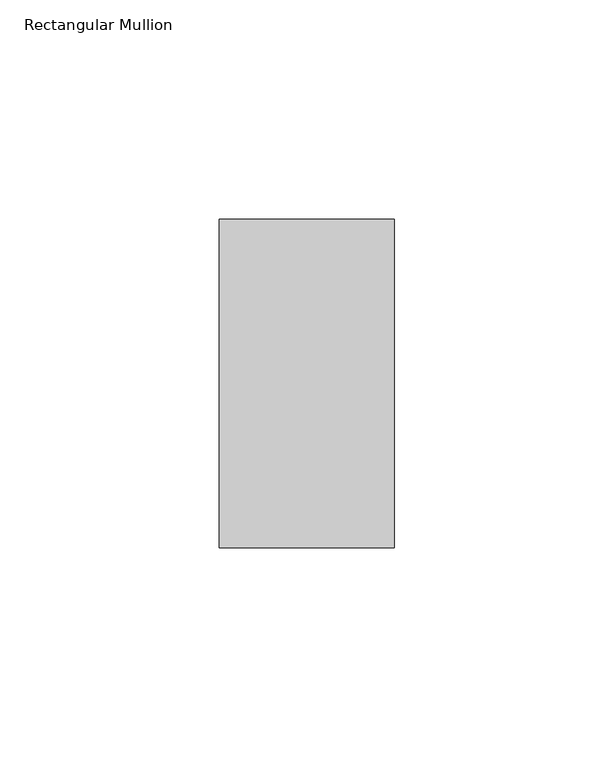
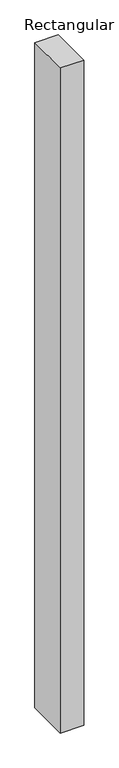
"""IFC4 building model written with IfcOpenShell, lengths in millimetres: member geometry, Rectangular Mullion : 22_IM_VNS_DET1_boven."""

from ifc_helpers import new_model, si_unit, frame, origin, place, context, project, spatial, polyline, outline, extrude, source, transform, mapped, element, save


def rectangular_mullion_8564558c(model_context):
    return source(origin(), model_context, "Body", "SweptSolid", [
        extrude(outline(polyline([(0.0, 37.5), (0.0, -37.5), (-40.0, -37.5), (-40.0, 37.5), (0.0, 37.5)])), frame((0.0, 0.0, -1200.0), z_axis=(0.0, 0.0, 1.0), x_axis=(1.0, 0.0, 0.0)), (0.0, 0.0, 1.0), 1200.0),
    ])


if __name__ == "__main__":
    model = new_model("IFC4")
    model_context = context("Model", 3, world=origin())
    ifc_project = project(units=[si_unit("LENGTHUNIT", "METRE", prefix="MILLI")], contexts=[model_context])
    site = spatial("IfcSite", under=ifc_project)
    building = spatial("IfcBuilding", under=site)
    placement = place(None, origin())
    rectangular_mullion_shape = rectangular_mullion_8564558c(model_context)
    element("IfcMember", 1, ObjectType="Rectangular Mullion : 22_IM_VNS_DET1_boven", at=placement, inside=building, context=model_context, shape_type="MappedRepresentation", body=[
        mapped(rectangular_mullion_shape, transform((0.0, 0.0, 0.0), x_axis=(1.0, 0.0, 0.0), y_axis=(0.0, 1.0, 0.0), z_axis=(0.0, 0.0, 1.0))),
    ])
    save(model, "model.ifc")
